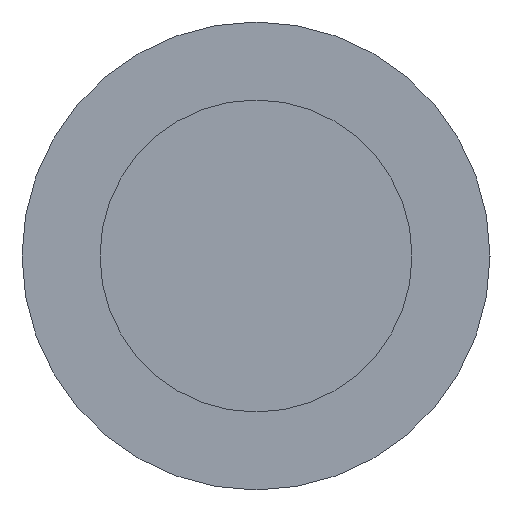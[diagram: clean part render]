
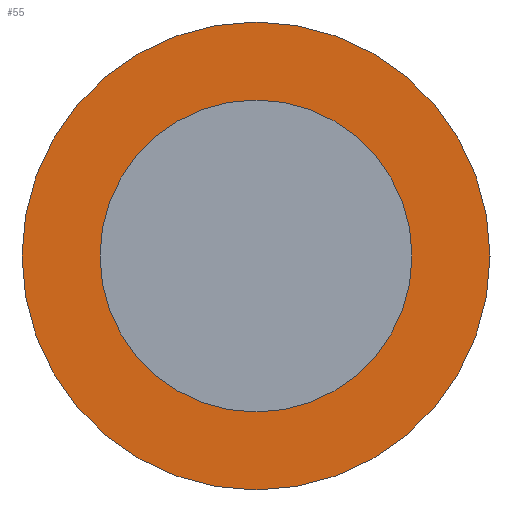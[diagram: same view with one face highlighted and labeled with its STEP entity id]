
A CAD part, left-side view. The second image highlights one B-rep face of the part: STEP entity #55.
In plain terms, the highlighted planar face has unit normal (-1, 0, 0).
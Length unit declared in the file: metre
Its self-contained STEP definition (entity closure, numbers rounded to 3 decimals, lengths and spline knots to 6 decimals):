
#13=PLANE('',#75);
#18=ORIENTED_EDGE('',*,*,#25,.F.);
#19=ORIENTED_EDGE('',*,*,#24,.T.);
#24=EDGE_CURVE('',#28,#28,#32,.T.);
#25=EDGE_CURVE('',#29,#29,#33,.T.);
#28=VERTEX_POINT('',#105);
#29=VERTEX_POINT('',#109);
#32=CIRCLE('',#73,0.0015);
#33=CIRCLE('',#76,0.001);
#38=EDGE_LOOP('',(#18));
#39=EDGE_LOOP('',(#19));
#46=FACE_BOUND('',#38,.T.);
#47=FACE_BOUND('',#39,.T.);
#55=ADVANCED_FACE('',(#46,#47),#13,.T.);
#73=AXIS2_PLACEMENT_3D('',#104,#86,#87);
#75=AXIS2_PLACEMENT_3D('',#107,#90,#91);
#76=AXIS2_PLACEMENT_3D('',#108,#92,#93);
#86=DIRECTION('',(-1.,0.,0.));
#87=DIRECTION('',(0.,0.,1.));
#90=DIRECTION('',(-1.,0.,0.));
#91=DIRECTION('',(0.,-1.,0.));
#92=DIRECTION('',(-1.,0.,0.));
#93=DIRECTION('',(0.,0.,1.));
#104=CARTESIAN_POINT('',(-0.0555,0.0285,-0.0135));
#105=CARTESIAN_POINT('',(-0.0555,0.0285,-0.012));
#107=CARTESIAN_POINT('',(-0.0555,0.0285,-0.0135));
#108=CARTESIAN_POINT('',(-0.0555,0.0285,-0.0135));
#109=CARTESIAN_POINT('',(-0.0555,0.0285,-0.0125));
